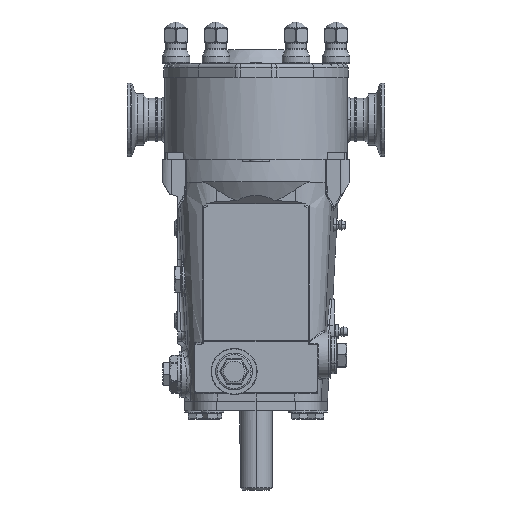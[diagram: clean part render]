
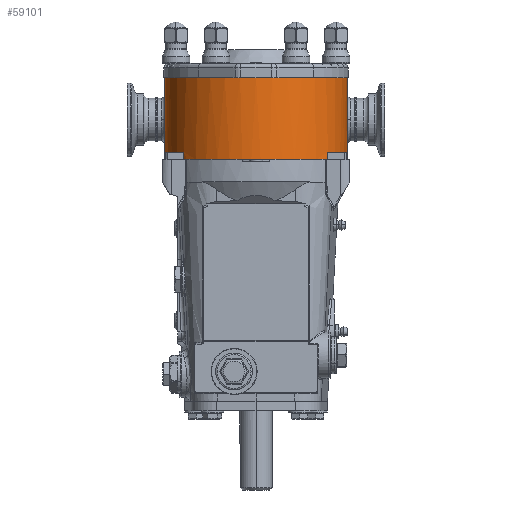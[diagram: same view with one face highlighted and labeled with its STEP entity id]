
A CAD part, front view. The second image highlights one B-rep face of the part: STEP entity #59101.
In plain terms, the highlighted cylindrical face has radius 62.992 mm (diameter 125.984 mm), a partial arc.
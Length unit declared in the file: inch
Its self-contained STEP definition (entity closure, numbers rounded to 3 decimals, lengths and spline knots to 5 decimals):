
#299 = CIRCLE ( 'NONE', #21831, 2.48 ) ;
#1175 = AXIS2_PLACEMENT_3D ( 'NONE', #43542, #12289, #48805 ) ;
#1249 = VERTEX_POINT ( 'NONE', #51980 ) ;
#1665 = CIRCLE ( 'NONE', #33199, 2.48 ) ;
#2525 = DIRECTION ( 'NONE',  ( 0., 0., 1. ) ) ;
#3212 = VERTEX_POINT ( 'NONE', #51036 ) ;
#3331 = CARTESIAN_POINT ( 'NONE',  ( 1.95069, -4.09441, -0.125 ) ) ;
#3383 = EDGE_CURVE ( 'NONE', #21158, #44828, #1665, .T. ) ;
#4411 = ORIENTED_EDGE ( 'NONE', *, *, #12504, .T. ) ;
#5079 = DIRECTION ( 'NONE',  ( 1., 0., 0. ) ) ;
#5922 = AXIS2_PLACEMENT_3D ( 'NONE', #44493, #13233, #49743 ) ;
#7248 = VERTEX_POINT ( 'NONE', #22622 ) ;
#7756 = AXIS2_PLACEMENT_3D ( 'NONE', #15359, #51878, #20564 ) ;
#8200 = DIRECTION ( 'NONE',  ( 0., 0., 1. ) ) ;
#9427 = VECTOR ( 'NONE', #64041, 39.37008 ) ;
#9779 = VERTEX_POINT ( 'NONE', #56437 ) ;
#11240 = EDGE_CURVE ( 'NONE', #63770, #15218, #63985, .T. ) ;
#11846 = DIRECTION ( 'NONE',  ( 0., 0., 1. ) ) ;
#12289 = DIRECTION ( 'NONE',  ( 0., 0., 1. ) ) ;
#12504 = EDGE_CURVE ( 'NONE', #39521, #3212, #63938, .T. ) ;
#12584 = VERTEX_POINT ( 'NONE', #19438 ) ;
#12802 = VERTEX_POINT ( 'NONE', #63262 ) ;
#12807 = VERTEX_POINT ( 'NONE', #47725 ) ;
#13233 = DIRECTION ( 'NONE',  ( 0., 0., 1. ) ) ;
#13248 = CARTESIAN_POINT ( 'NONE',  ( 2.45837, -2.88985, 0.075 ) ) ;
#13520 = DIRECTION ( 'NONE',  ( 0., 0., 1. ) ) ;
#13740 = AXIS2_PLACEMENT_3D ( 'NONE', #33814, #2525, #39082 ) ;
#14029 = ORIENTED_EDGE ( 'NONE', *, *, #47802, .T. ) ;
#15208 = DIRECTION ( 'NONE',  ( 0., 0., -1. ) ) ;
#15218 = VERTEX_POINT ( 'NONE', #60692 ) ;
#15359 = CARTESIAN_POINT ( 'NONE',  ( 0., -2.563, 0.075 ) ) ;
#16188 = ORIENTED_EDGE ( 'NONE', *, *, #39143, .T. ) ;
#16303 = CARTESIAN_POINT ( 'NONE',  ( 0., -2.563, -0.125 ) ) ;
#16798 = CIRCLE ( 'NONE', #35585, 2.48 ) ;
#17615 = ORIENTED_EDGE ( 'NONE', *, *, #3383, .T. ) ;
#18354 = CIRCLE ( 'NONE', #52033, 2.48 ) ;
#18385 = CARTESIAN_POINT ( 'NONE',  ( 1.875, -4.1862, -0.125 ) ) ;
#18770 = VECTOR ( 'NONE', #45652, 39.37008 ) ;
#18800 = EDGE_CURVE ( 'NONE', #7248, #1249, #60181, .T. ) ;
#19245 = EDGE_CURVE ( 'NONE', #63770, #21158, #37237, .T. ) ;
#19438 = CARTESIAN_POINT ( 'NONE',  ( 2.48, -2.563, 2.096 ) ) ;
#19973 = EDGE_CURVE ( 'NONE', #12807, #35212, #18354, .T. ) ;
#20371 = AXIS2_PLACEMENT_3D ( 'NONE', #47316, #52557, #62851 ) ;
#20509 = ORIENTED_EDGE ( 'NONE', *, *, #19245, .T. ) ;
#20564 = DIRECTION ( 'NONE',  ( 1., 0., 0. ) ) ;
#21040 = CARTESIAN_POINT ( 'NONE',  ( -1.95756, -4.08562, -0.125 ) ) ;
#21158 = VERTEX_POINT ( 'NONE', #35264 ) ;
#21183 = CARTESIAN_POINT ( 'NONE',  ( -1.95756, -4.08562, 2.096 ) ) ;
#21204 = AXIS2_PLACEMENT_3D ( 'NONE', #56954, #25616, #62205 ) ;
#21518 = DIRECTION ( 'NONE',  ( 1., 0., 0. ) ) ;
#21831 = AXIS2_PLACEMENT_3D ( 'NONE', #46485, #15208, #51725 ) ;
#22622 = CARTESIAN_POINT ( 'NONE',  ( -1.875, -4.1862, -0.125 ) ) ;
#22674 = CARTESIAN_POINT ( 'NONE',  ( -2.48, -2.563, 2.096 ) ) ;
#23644 = VERTEX_POINT ( 'NONE', #21040 ) ;
#24876 = EDGE_CURVE ( 'NONE', #12802, #9779, #27251, .T. ) ;
#25074 = CARTESIAN_POINT ( 'NONE',  ( 1.95069, -4.09441, 2.096 ) ) ;
#25616 = DIRECTION ( 'NONE',  ( 0., 0., 1. ) ) ;
#26853 = VERTEX_POINT ( 'NONE', #3331 ) ;
#27251 = LINE ( 'NONE', #22674, #41166 ) ;
#27506 = CARTESIAN_POINT ( 'NONE',  ( 2.45837, -2.88985, 2.096 ) ) ;
#28168 = ORIENTED_EDGE ( 'NONE', *, *, #65930, .T. ) ;
#28211 = AXIS2_PLACEMENT_3D ( 'NONE', #67682, #36386, #5079 ) ;
#28297 = VECTOR ( 'NONE', #30825, 39.37008 ) ;
#28522 = EDGE_CURVE ( 'NONE', #12584, #44828, #43833, .T. ) ;
#29648 = CIRCLE ( 'NONE', #13740, 2.48 ) ;
#30825 = DIRECTION ( 'NONE',  ( 0., 0., -1. ) ) ;
#31035 = CARTESIAN_POINT ( 'NONE',  ( 2.48, -2.563, 2.096 ) ) ;
#33199 = AXIS2_PLACEMENT_3D ( 'NONE', #16303, #52852, #21518 ) ;
#33356 = CYLINDRICAL_SURFACE ( 'NONE', #20371, 2.48 ) ;
#33814 = CARTESIAN_POINT ( 'NONE',  ( 0., -2.563, -0.125 ) ) ;
#34302 = LINE ( 'NONE', #25074, #18770 ) ;
#35212 = VERTEX_POINT ( 'NONE', #18385 ) ;
#35264 = CARTESIAN_POINT ( 'NONE',  ( 2.45837, -2.88985, -0.125 ) ) ;
#35585 = AXIS2_PLACEMENT_3D ( 'NONE', #39488, #8200, #44741 ) ;
#35771 = ORIENTED_EDGE ( 'NONE', *, *, #39374, .T. ) ;
#36386 = DIRECTION ( 'NONE',  ( 0., 0., 1. ) ) ;
#36894 = CIRCLE ( 'NONE', #28211, 2.48 ) ;
#36964 = DIRECTION ( 'NONE',  ( 0., 0., -1. ) ) ;
#37237 = LINE ( 'NONE', #27506, #9427 ) ;
#37513 = EDGE_CURVE ( 'NONE', #26853, #15218, #34302, .T. ) ;
#39082 = DIRECTION ( 'NONE',  ( 1., 0., 0. ) ) ;
#39143 = EDGE_CURVE ( 'NONE', #67546, #23644, #41465, .T. ) ;
#39374 = EDGE_CURVE ( 'NONE', #1249, #12807, #43858, .T. ) ;
#39488 = CARTESIAN_POINT ( 'NONE',  ( 0., -2.563, -0.125 ) ) ;
#39521 = VERTEX_POINT ( 'NONE', #40828 ) ;
#40828 = CARTESIAN_POINT ( 'NONE',  ( -2.45837, -2.88985, -0.125 ) ) ;
#41166 = VECTOR ( 'NONE', #59261, 39.37008 ) ;
#41190 = ORIENTED_EDGE ( 'NONE', *, *, #54634, .F. ) ;
#41465 = LINE ( 'NONE', #21183, #55387 ) ;
#42303 = ORIENTED_EDGE ( 'NONE', *, *, #19973, .T. ) ;
#43116 = CARTESIAN_POINT ( 'NONE',  ( 0., -2.563, -0.125 ) ) ;
#43542 = CARTESIAN_POINT ( 'NONE',  ( 0., -2.563, -0.125 ) ) ;
#43833 = LINE ( 'NONE', #31035, #28297 ) ;
#43858 = CIRCLE ( 'NONE', #5922, 2.48 ) ;
#44493 = CARTESIAN_POINT ( 'NONE',  ( 0., -2.563, -0.125 ) ) ;
#44741 = DIRECTION ( 'NONE',  ( 1., 0., 0. ) ) ;
#44828 = VERTEX_POINT ( 'NONE', #58044 ) ;
#45652 = DIRECTION ( 'NONE',  ( 0., 0., 1. ) ) ;
#46485 = CARTESIAN_POINT ( 'NONE',  ( 0., -2.563, 0.075 ) ) ;
#46627 = EDGE_CURVE ( 'NONE', #35212, #26853, #29648, .T. ) ;
#47316 = CARTESIAN_POINT ( 'NONE',  ( 0., -2.563, 2.096 ) ) ;
#47725 = CARTESIAN_POINT ( 'NONE',  ( 0.375, -5.01448, -0.125 ) ) ;
#47802 = EDGE_CURVE ( 'NONE', #9779, #39521, #50764, .T. ) ;
#47818 = EDGE_CURVE ( 'NONE', #12802, #12584, #36894, .T. ) ;
#48366 = DIRECTION ( 'NONE',  ( 1., 0., 0. ) ) ;
#48805 = DIRECTION ( 'NONE',  ( 1., 0., 0. ) ) ;
#49743 = DIRECTION ( 'NONE',  ( 1., 0., 0. ) ) ;
#50030 = VECTOR ( 'NONE', #13520, 39.37008 ) ;
#50083 = ORIENTED_EDGE ( 'NONE', *, *, #24876, .T. ) ;
#50764 = CIRCLE ( 'NONE', #21204, 2.48 ) ;
#51036 = CARTESIAN_POINT ( 'NONE',  ( -2.45837, -2.88985, 0.075 ) ) ;
#51623 = ORIENTED_EDGE ( 'NONE', *, *, #11240, .F. ) ;
#51725 = DIRECTION ( 'NONE',  ( -1., 0., 0. ) ) ;
#51878 = DIRECTION ( 'NONE',  ( 0., 0., -1. ) ) ;
#51980 = CARTESIAN_POINT ( 'NONE',  ( -0.375, -5.01448, -0.125 ) ) ;
#52033 = AXIS2_PLACEMENT_3D ( 'NONE', #43116, #11846, #48366 ) ;
#52557 = DIRECTION ( 'NONE',  ( 0., 0., -1. ) ) ;
#52852 = DIRECTION ( 'NONE',  ( 0., 0., 1. ) ) ;
#53617 = ORIENTED_EDGE ( 'NONE', *, *, #28522, .F. ) ;
#54180 = ORIENTED_EDGE ( 'NONE', *, *, #47818, .F. ) ;
#54634 = EDGE_CURVE ( 'NONE', #67546, #3212, #299, .T. ) ;
#55387 = VECTOR ( 'NONE', #36964, 39.37008 ) ;
#55559 = ORIENTED_EDGE ( 'NONE', *, *, #37513, .T. ) ;
#56437 = CARTESIAN_POINT ( 'NONE',  ( -2.48, -2.563, -0.125 ) ) ;
#56954 = CARTESIAN_POINT ( 'NONE',  ( 0., -2.563, -0.125 ) ) ;
#57804 = EDGE_LOOP ( 'NONE', ( #41190, #16188, #28168, #59252, #35771, #42303, #60647, #55559, #51623, #20509, #17615, #53617, #54180, #50083, #14029, #4411 ) ) ;
#58044 = CARTESIAN_POINT ( 'NONE',  ( 2.48, -2.563, -0.125 ) ) ;
#59101 = ADVANCED_FACE ( 'NONE', ( #61194 ), #33356, .T. ) ;
#59252 = ORIENTED_EDGE ( 'NONE', *, *, #18800, .T. ) ;
#59261 = DIRECTION ( 'NONE',  ( 0., 0., -1. ) ) ;
#60181 = CIRCLE ( 'NONE', #1175, 2.48 ) ;
#60525 = CARTESIAN_POINT ( 'NONE',  ( -1.95756, -4.08562, 0.075 ) ) ;
#60647 = ORIENTED_EDGE ( 'NONE', *, *, #46627, .T. ) ;
#60692 = CARTESIAN_POINT ( 'NONE',  ( 1.95069, -4.09441, 0.075 ) ) ;
#61194 = FACE_OUTER_BOUND ( 'NONE', #57804, .T. ) ;
#62205 = DIRECTION ( 'NONE',  ( 1., 0., 0. ) ) ;
#62851 = DIRECTION ( 'NONE',  ( -1., 0., 0. ) ) ;
#63262 = CARTESIAN_POINT ( 'NONE',  ( -2.48, -2.563, 2.096 ) ) ;
#63770 = VERTEX_POINT ( 'NONE', #13248 ) ;
#63938 = LINE ( 'NONE', #65581, #50030 ) ;
#63985 = CIRCLE ( 'NONE', #7756, 2.48 ) ;
#64041 = DIRECTION ( 'NONE',  ( 0., 0., -1. ) ) ;
#65581 = CARTESIAN_POINT ( 'NONE',  ( -2.45837, -2.88985, 2.096 ) ) ;
#65930 = EDGE_CURVE ( 'NONE', #23644, #7248, #16798, .T. ) ;
#67546 = VERTEX_POINT ( 'NONE', #60525 ) ;
#67682 = CARTESIAN_POINT ( 'NONE',  ( 0., -2.563, 2.096 ) ) ;
